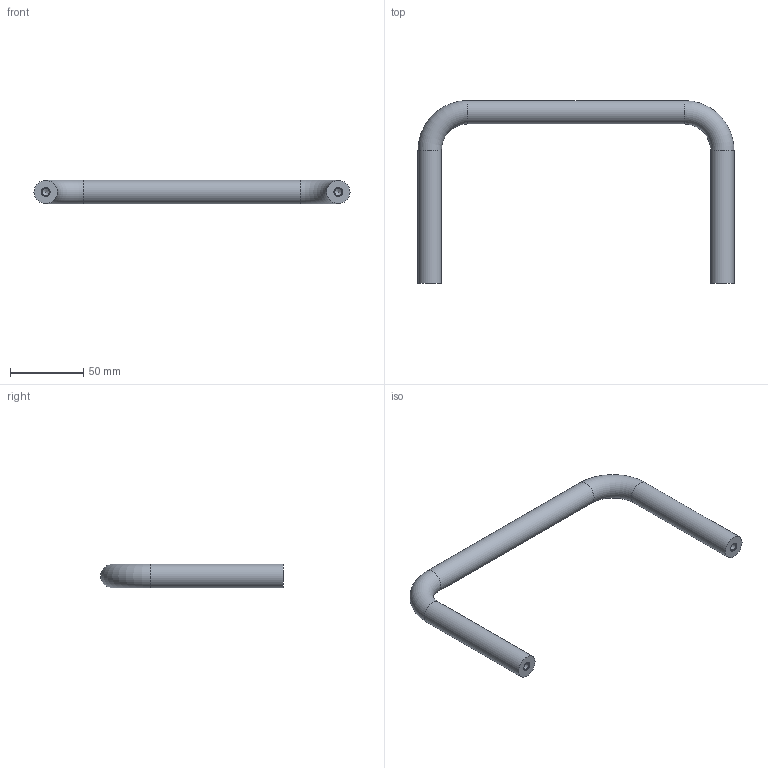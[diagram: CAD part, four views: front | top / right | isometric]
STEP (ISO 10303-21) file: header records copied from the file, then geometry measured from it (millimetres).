
FILE_DESCRIPTION(/* description */ ('STEP AP214'),/* implementation_level */ '2;1');
FILE_NAME(/* name */ 'Cabinet U-Handle_ Stainless Steel GN 435-NI-16-200-125-GS',/* time_stamp */ '2023-12-15T08:45:35+01:00',/* author */ ('License CC BY-ND 4.0'),/* organization */ ('CADENAS'),/* preprocessor_version */ 'ST-DEVELOPER v19.3',/* originating_system */ 'PARTsolutions',/* authorisation */ ' ');
FILE_SCHEMA (('AUTOMOTIVE_DESIGN {1 0 10303 214 3 1 1}'));
Length unit declared in the file: millimetre
Products named in the file (1): Cabinet U-Handle, Stainless Steel GN 435-NI-16-200-125-GS
Bounding box: 216 x 125 x 16 mm (x, y, z)
Volume: 82142.3 mm3; surface area: 21587.1 mm2
Topology: 1 solids, 1 shells, 13 faces, 30 edges, 19 vertices
Faces by surface type: cylinder 5, cone 4, plane 2, torus 2
Full cylindrical faces by diameter (mm): 4.917 x2, 16 x3
Entity records: 292 total; most frequent: DIRECTION 52, CARTESIAN_POINT 40, FACE_BOUND 26, AXIS2_PLACEMENT_3D 26, ORIENTED_EDGE 24, EDGE_LOOP 24, VERTEX_POINT 14, ADVANCED_FACE 13
